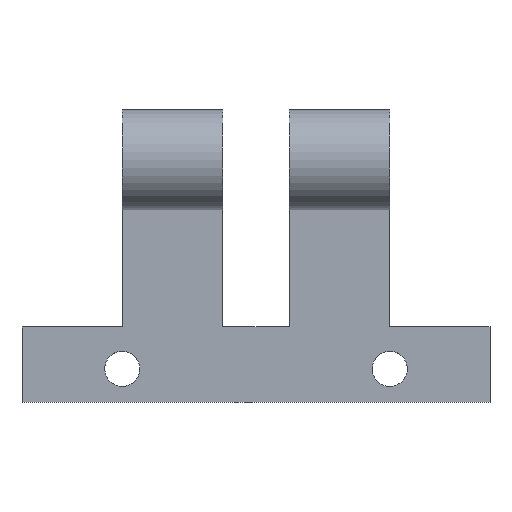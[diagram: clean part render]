
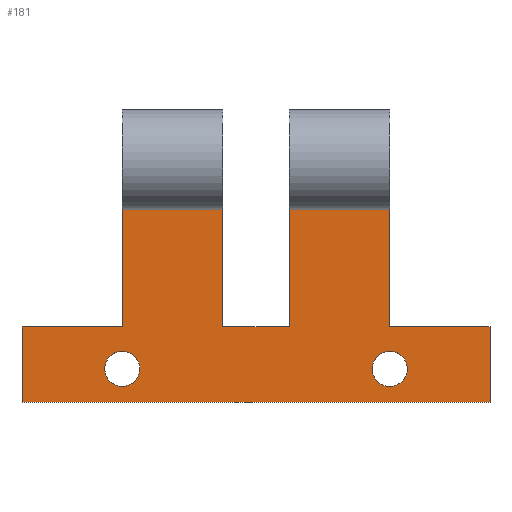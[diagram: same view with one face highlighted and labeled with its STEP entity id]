
A CAD part, top view. The second image highlights one B-rep face of the part: STEP entity #181.
In plain terms, the highlighted planar face has unit normal (0, 0, 1).
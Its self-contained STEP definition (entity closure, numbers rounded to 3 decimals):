
#24 = VERTEX_POINT('',#25);
#25 = CARTESIAN_POINT('',(-28.,118.,280.8));
#40 = VERTEX_POINT('',#41);
#41 = CARTESIAN_POINT('',(-28.,127.,280.8));
#47 = EDGE_CURVE('',#24,#40,#48,.T.);
#48 = LINE('',#49,#50);
#49 = CARTESIAN_POINT('',(-28.,118.,280.8));
#50 = VECTOR('',#51,1.);
#51 = DIRECTION('',(-0.,1.,0.));
#70 = EDGE_CURVE('',#24,#71,#73,.T.);
#71 = VERTEX_POINT('',#72);
#72 = CARTESIAN_POINT('',(28.,118.,280.8));
#73 = LINE('',#74,#75);
#74 = CARTESIAN_POINT('',(-28.,118.,280.8));
#75 = VECTOR('',#76,1.);
#76 = DIRECTION('',(1.,0.,-0.));
#101 = EDGE_CURVE('',#40,#102,#104,.T.);
#102 = VERTEX_POINT('',#103);
#103 = CARTESIAN_POINT('',(-16.,127.,280.8));
#104 = LINE('',#105,#106);
#105 = CARTESIAN_POINT('',(-28.,127.,280.8));
#106 = VECTOR('',#107,1.);
#107 = DIRECTION('',(1.,0.,-0.));
#133 = VERTEX_POINT('',#134);
#134 = CARTESIAN_POINT('',(28.,127.,280.8));
#140 = EDGE_CURVE('',#71,#133,#141,.T.);
#141 = LINE('',#142,#143);
#142 = CARTESIAN_POINT('',(28.,118.,280.8));
#143 = VECTOR('',#144,1.);
#144 = DIRECTION('',(-0.,1.,0.));
#163 = VERTEX_POINT('',#164);
#164 = CARTESIAN_POINT('',(16.,127.,280.8));
#170 = EDGE_CURVE('',#163,#133,#171,.T.);
#171 = LINE('',#172,#173);
#172 = CARTESIAN_POINT('',(-28.,127.,280.8));
#173 = VECTOR('',#174,1.);
#174 = DIRECTION('',(1.,0.,-0.));
#181 = ADVANCED_FACE('',(#182,#243,#272),#301,.T.);
#182 = FACE_BOUND('',#183,.T.);
#183 = EDGE_LOOP('',(#184,#185,#186,#187,#188,#189,#197,#205,#213,#221,
    #229,#237));
#184 = ORIENTED_EDGE('',*,*,#101,.F.);
#185 = ORIENTED_EDGE('',*,*,#47,.F.);
#186 = ORIENTED_EDGE('',*,*,#70,.T.);
#187 = ORIENTED_EDGE('',*,*,#140,.T.);
#188 = ORIENTED_EDGE('',*,*,#170,.F.);
#189 = ORIENTED_EDGE('',*,*,#190,.T.);
#190 = EDGE_CURVE('',#163,#191,#193,.T.);
#191 = VERTEX_POINT('',#192);
#192 = CARTESIAN_POINT('',(16.,141.925,280.8));
#193 = LINE('',#194,#195);
#194 = CARTESIAN_POINT('',(16.,123.,280.8));
#195 = VECTOR('',#196,1.);
#196 = DIRECTION('',(-0.,1.,0.));
#197 = ORIENTED_EDGE('',*,*,#198,.F.);
#198 = EDGE_CURVE('',#199,#191,#201,.T.);
#199 = VERTEX_POINT('',#200);
#200 = CARTESIAN_POINT('',(4.,141.925,280.8));
#201 = LINE('',#202,#203);
#202 = CARTESIAN_POINT('',(4.,141.925,280.8));
#203 = VECTOR('',#204,1.);
#204 = DIRECTION('',(1.,0.,0.));
#205 = ORIENTED_EDGE('',*,*,#206,.F.);
#206 = EDGE_CURVE('',#207,#199,#209,.T.);
#207 = VERTEX_POINT('',#208);
#208 = CARTESIAN_POINT('',(4.,127.,280.8));
#209 = LINE('',#210,#211);
#210 = CARTESIAN_POINT('',(4.,123.,280.8));
#211 = VECTOR('',#212,1.);
#212 = DIRECTION('',(-0.,1.,0.));
#213 = ORIENTED_EDGE('',*,*,#214,.F.);
#214 = EDGE_CURVE('',#215,#207,#217,.T.);
#215 = VERTEX_POINT('',#216);
#216 = CARTESIAN_POINT('',(-4.,127.,280.8));
#217 = LINE('',#218,#219);
#218 = CARTESIAN_POINT('',(-28.,127.,280.8));
#219 = VECTOR('',#220,1.);
#220 = DIRECTION('',(1.,0.,-0.));
#221 = ORIENTED_EDGE('',*,*,#222,.T.);
#222 = EDGE_CURVE('',#215,#223,#225,.T.);
#223 = VERTEX_POINT('',#224);
#224 = CARTESIAN_POINT('',(-4.,141.925,280.8));
#225 = LINE('',#226,#227);
#226 = CARTESIAN_POINT('',(-4.,123.,280.8));
#227 = VECTOR('',#228,1.);
#228 = DIRECTION('',(-0.,1.,0.));
#229 = ORIENTED_EDGE('',*,*,#230,.F.);
#230 = EDGE_CURVE('',#231,#223,#233,.T.);
#231 = VERTEX_POINT('',#232);
#232 = CARTESIAN_POINT('',(-16.,141.925,280.8));
#233 = LINE('',#234,#235);
#234 = CARTESIAN_POINT('',(-16.,141.925,280.8));
#235 = VECTOR('',#236,1.);
#236 = DIRECTION('',(1.,0.,0.));
#237 = ORIENTED_EDGE('',*,*,#238,.F.);
#238 = EDGE_CURVE('',#102,#231,#239,.T.);
#239 = LINE('',#240,#241);
#240 = CARTESIAN_POINT('',(-16.,123.,280.8));
#241 = VECTOR('',#242,1.);
#242 = DIRECTION('',(-0.,1.,0.));
#243 = FACE_BOUND('',#244,.T.);
#244 = EDGE_LOOP('',(#245,#256,#265));
#245 = ORIENTED_EDGE('',*,*,#246,.F.);
#246 = EDGE_CURVE('',#247,#249,#251,.T.);
#247 = VERTEX_POINT('',#248);
#248 = CARTESIAN_POINT('',(-16.,124.1,280.8));
#249 = VERTEX_POINT('',#250);
#250 = CARTESIAN_POINT('',(-13.9,122.,280.8));
#251 = CIRCLE('',#252,2.1);
#252 = AXIS2_PLACEMENT_3D('',#253,#254,#255);
#253 = CARTESIAN_POINT('',(-16.,122.,280.8));
#254 = DIRECTION('',(0.,0.,1.));
#255 = DIRECTION('',(1.,0.,-0.));
#256 = ORIENTED_EDGE('',*,*,#257,.F.);
#257 = EDGE_CURVE('',#258,#247,#260,.T.);
#258 = VERTEX_POINT('',#259);
#259 = CARTESIAN_POINT('',(-14.153,123.,280.8));
#260 = CIRCLE('',#261,2.1);
#261 = AXIS2_PLACEMENT_3D('',#262,#263,#264);
#262 = CARTESIAN_POINT('',(-16.,122.,280.8));
#263 = DIRECTION('',(0.,0.,1.));
#264 = DIRECTION('',(1.,0.,-0.));
#265 = ORIENTED_EDGE('',*,*,#266,.F.);
#266 = EDGE_CURVE('',#249,#258,#267,.T.);
#267 = CIRCLE('',#268,2.1);
#268 = AXIS2_PLACEMENT_3D('',#269,#270,#271);
#269 = CARTESIAN_POINT('',(-16.,122.,280.8));
#270 = DIRECTION('',(0.,0.,1.));
#271 = DIRECTION('',(1.,0.,-0.));
#272 = FACE_BOUND('',#273,.T.);
#273 = EDGE_LOOP('',(#274,#285,#294));
#274 = ORIENTED_EDGE('',*,*,#275,.F.);
#275 = EDGE_CURVE('',#276,#278,#280,.T.);
#276 = VERTEX_POINT('',#277);
#277 = CARTESIAN_POINT('',(14.153,123.,280.8));
#278 = VERTEX_POINT('',#279);
#279 = CARTESIAN_POINT('',(18.1,122.,280.8));
#280 = CIRCLE('',#281,2.1);
#281 = AXIS2_PLACEMENT_3D('',#282,#283,#284);
#282 = CARTESIAN_POINT('',(16.,122.,280.8));
#283 = DIRECTION('',(0.,0.,1.));
#284 = DIRECTION('',(1.,0.,-0.));
#285 = ORIENTED_EDGE('',*,*,#286,.F.);
#286 = EDGE_CURVE('',#287,#276,#289,.T.);
#287 = VERTEX_POINT('',#288);
#288 = CARTESIAN_POINT('',(16.,124.1,280.8));
#289 = CIRCLE('',#290,2.1);
#290 = AXIS2_PLACEMENT_3D('',#291,#292,#293);
#291 = CARTESIAN_POINT('',(16.,122.,280.8));
#292 = DIRECTION('',(0.,0.,1.));
#293 = DIRECTION('',(1.,0.,-0.));
#294 = ORIENTED_EDGE('',*,*,#295,.F.);
#295 = EDGE_CURVE('',#278,#287,#296,.T.);
#296 = CIRCLE('',#297,2.1);
#297 = AXIS2_PLACEMENT_3D('',#298,#299,#300);
#298 = CARTESIAN_POINT('',(16.,122.,280.8));
#299 = DIRECTION('',(0.,0.,1.));
#300 = DIRECTION('',(1.,0.,-0.));
#301 = PLANE('',#302);
#302 = AXIS2_PLACEMENT_3D('',#303,#304,#305);
#303 = CARTESIAN_POINT('',(0.,128.153,280.8));
#304 = DIRECTION('',(0.,0.,1.));
#305 = DIRECTION('',(1.,0.,-0.));
